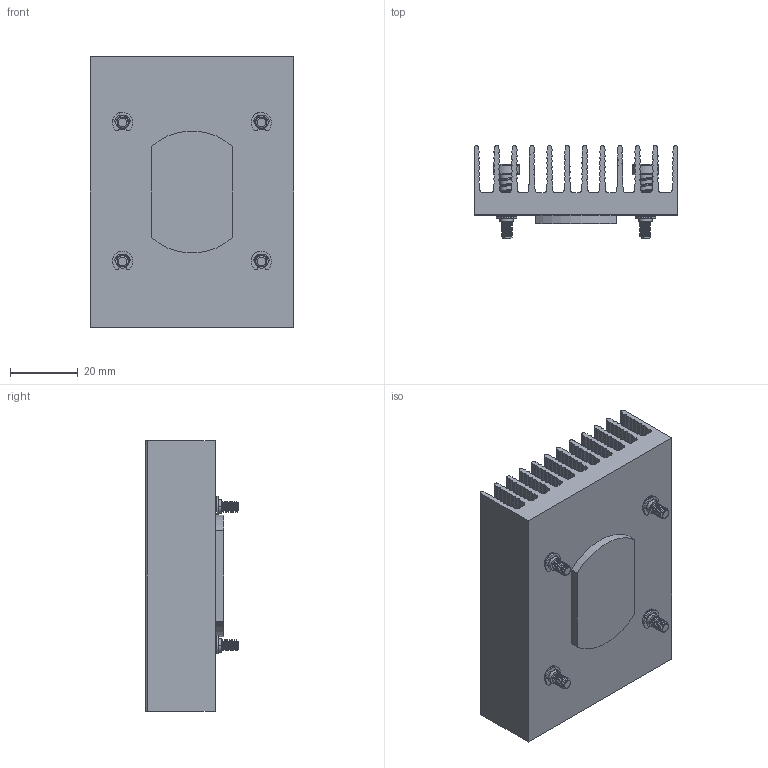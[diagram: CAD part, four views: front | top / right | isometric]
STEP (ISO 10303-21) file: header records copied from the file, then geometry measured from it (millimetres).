
FILE_DESCRIPTION((''),'2;1');
FILE_NAME('E1961211120008R_ASM','2024-07-17T15:01:21',('jamie_liao'),(''),'CREO PARAMETRIC BY PTC INC, 2023294','CREO PARAMETRIC BY PTC INC, 2023294','');
FILE_SCHEMA(('CONFIG_CONTROL_DESIGN','GEOMETRIC_VALIDATION_PROPERTIES_MIM'));
Products named in the file (7): 60X23_9-1; SCREW-M2_5_3_2_1_1; SPRING-M2_5_2_3_1_1; SPRING-SCREW_M2_5_ASM_7_ASM_2_A_ASM; 6_E_RING_1_1_1; SPRING-SCREW_M2_5_ASM_ASM_4_ASM_ASM; E1961211120008R_ASM
Assembly tree (9 placements, depth 4):
  E1961211120008R_ASM
    60X23_9-1
    SPRING-SCREW_M2_5_ASM_ASM_4_ASM_ASM  x4
      SPRING-SCREW_M2_5_ASM_7_ASM_2_A_ASM
        SCREW-M2_5_3_2_1_1
        SPRING-M2_5_2_3_1_1
      6_E_RING_1_1_1
Bounding box: 60 x 27.4 x 80 mm (x, y, z)
Volume: 51404.8 mm3; surface area: 39529.6 mm2
Topology: 13 solids, 13 shells, 1759 faces, 5179 edges, 3467 vertices
Faces by surface type: cylinder 900, plane 755, bspline 88, torus 16
Entity records: 55049 total; most frequent: CARTESIAN_POINT 14835, ORIENTED_EDGE 8510, DIRECTION 7995, EDGE_CURVE 4255, VERTEX_POINT 2882, AXIS2_PLACEMENT_3D 2728, VECTOR 2539, LINE 2539
